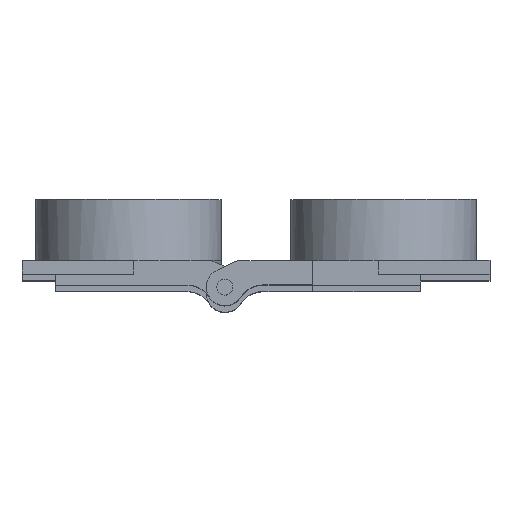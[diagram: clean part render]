
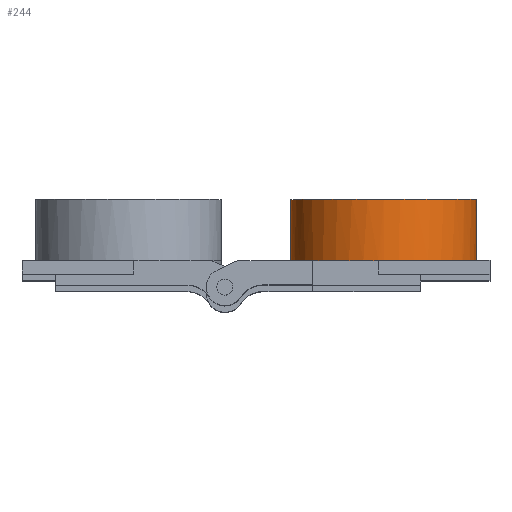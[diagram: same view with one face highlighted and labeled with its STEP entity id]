
A CAD part, top view. The second image highlights one B-rep face of the part: STEP entity #244.
In plain terms, the highlighted cylindrical face has radius 17.5 mm (diameter 35 mm), a full revolution.
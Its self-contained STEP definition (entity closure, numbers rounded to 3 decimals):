
#244 = ADVANCED_FACE( '', ( #508, #509 ), #510, .T. );
#508 = FACE_OUTER_BOUND( '', #785, .T. );
#509 = FACE_OUTER_BOUND( '', #786, .T. );
#510 = CYLINDRICAL_SURFACE( '', #787, 17.5 );
#785 = EDGE_LOOP( '', ( #1372 ) );
#786 = EDGE_LOOP( '', ( #1373, #1374, #1375, #1376, #1377, #1378, #1379, #1380, #1381, #1382 ) );
#787 = AXIS2_PLACEMENT_3D( '', #1383, #1384, #1385 );
#1372 = ORIENTED_EDGE( '', *, *, #1618, .F. );
#1373 = ORIENTED_EDGE( '', *, *, #1801, .T. );
#1374 = ORIENTED_EDGE( '', *, *, #1817, .T. );
#1375 = ORIENTED_EDGE( '', *, *, #1806, .T. );
#1376 = ORIENTED_EDGE( '', *, *, #1818, .T. );
#1377 = ORIENTED_EDGE( '', *, *, #1742, .T. );
#1378 = ORIENTED_EDGE( '', *, *, #1819, .T. );
#1379 = ORIENTED_EDGE( '', *, *, #1741, .T. );
#1380 = ORIENTED_EDGE( '', *, *, #1820, .T. );
#1381 = ORIENTED_EDGE( '', *, *, #1746, .T. );
#1382 = ORIENTED_EDGE( '', *, *, #1821, .T. );
#1383 = CARTESIAN_POINT( '', ( 24., 50., 0. ) );
#1384 = DIRECTION( '', ( 0., -1., 0. ) );
#1385 = DIRECTION( '', ( 0., 0., 1. ) );
#1618 = EDGE_CURVE( '', #1926, #1926, #1927, .T. );
#1741 = EDGE_CURVE( '', #1882, #1877, #2120, .T. );
#1742 = EDGE_CURVE( '', #2046, #1866, #2121, .T. );
#1746 = EDGE_CURVE( '', #2092, #2125, #2127, .T. );
#1801 = EDGE_CURVE( '', #2206, #2106, #2207, .T. );
#1806 = EDGE_CURVE( '', #2108, #2170, #2214, .T. );
#1817 = EDGE_CURVE( '', #2106, #2108, #2225, .T. );
#1818 = EDGE_CURVE( '', #2170, #2046, #2226, .T. );
#1819 = EDGE_CURVE( '', #1866, #1882, #2227, .T. );
#1820 = EDGE_CURVE( '', #1877, #2092, #2228, .T. );
#1821 = EDGE_CURVE( '', #2125, #2206, #2229, .T. );
#1866 = VERTEX_POINT( '', #2280 );
#1877 = VERTEX_POINT( '', #2296 );
#1882 = VERTEX_POINT( '', #2304 );
#1926 = VERTEX_POINT( '', #2354 );
#1927 = CIRCLE( '', #2355, 17.5 );
#2046 = VERTEX_POINT( '', #2515 );
#2092 = VERTEX_POINT( '', #2582 );
#2106 = VERTEX_POINT( '', #2603 );
#2108 = VERTEX_POINT( '', #2605 );
#2120 = CIRCLE( '', #2619, 17.5 );
#2121 = CIRCLE( '', #2620, 17.5 );
#2125 = VERTEX_POINT( '', #2626 );
#2127 = CIRCLE( '', #2629, 17.5 );
#2170 = VERTEX_POINT( '', #2685 );
#2206 = VERTEX_POINT( '', #2736 );
#2207 = CIRCLE( '', #2737, 17.5 );
#2214 = CIRCLE( '', #2748, 17.5 );
#2225 = CIRCLE( '', #2763, 17.5 );
#2226 = CIRCLE( '', #2764, 17.5 );
#2227 = CIRCLE( '', #2765, 17.5 );
#2228 = CIRCLE( '', #2766, 17.5 );
#2229 = CIRCLE( '', #2767, 17.5 );
#2280 = CARTESIAN_POINT( '', ( 38.697, 0., 9.5 ) );
#2296 = CARTESIAN_POINT( '', ( 39., 0., -9.014 ) );
#2304 = CARTESIAN_POINT( '', ( 39., 0., 9.014 ) );
#2354 = CARTESIAN_POINT( '', ( 24., 11.5, 17.5 ) );
#2355 = AXIS2_PLACEMENT_3D( '', #2880, #2881, #2882 );
#2515 = CARTESIAN_POINT( '', ( 23., 0., 17.471 ) );
#2582 = CARTESIAN_POINT( '', ( 38.697, 0., -9.5 ) );
#2603 = CARTESIAN_POINT( '', ( 6.728, 0., -2.815 ) );
#2605 = CARTESIAN_POINT( '', ( 6.728, 0., 2.815 ) );
#2619 = AXIS2_PLACEMENT_3D( '', #3023, #3024, #3025 );
#2620 = AXIS2_PLACEMENT_3D( '', #3026, #3027, #3028 );
#2626 = CARTESIAN_POINT( '', ( 23., 0., -17.471 ) );
#2629 = AXIS2_PLACEMENT_3D( '', #3032, #3033, #3034 );
#2685 = CARTESIAN_POINT( '', ( 10.65, 0., 11.315 ) );
#2736 = CARTESIAN_POINT( '', ( 10.65, 0., -11.315 ) );
#2737 = AXIS2_PLACEMENT_3D( '', #3096, #3097, #3098 );
#2748 = AXIS2_PLACEMENT_3D( '', #3103, #3104, #3105 );
#2763 = AXIS2_PLACEMENT_3D( '', #3113, #3114, #3115 );
#2764 = AXIS2_PLACEMENT_3D( '', #3116, #3117, #3118 );
#2765 = AXIS2_PLACEMENT_3D( '', #3119, #3120, #3121 );
#2766 = AXIS2_PLACEMENT_3D( '', #3122, #3123, #3124 );
#2767 = AXIS2_PLACEMENT_3D( '', #3125, #3126, #3127 );
#2880 = CARTESIAN_POINT( '', ( 24., 11.5, 0. ) );
#2881 = DIRECTION( '', ( 0., 1., 0. ) );
#2882 = DIRECTION( '', ( 0., 0., 1. ) );
#3023 = CARTESIAN_POINT( '', ( 24., 0., 0. ) );
#3024 = DIRECTION( '', ( 0., 1., 0. ) );
#3025 = DIRECTION( '', ( 0., 0., 1. ) );
#3026 = CARTESIAN_POINT( '', ( 24., 0., 0. ) );
#3027 = DIRECTION( '', ( 0., 1., 0. ) );
#3028 = DIRECTION( '', ( 0., 0., 1. ) );
#3032 = CARTESIAN_POINT( '', ( 24., 0., 0. ) );
#3033 = DIRECTION( '', ( 0., 1., 0. ) );
#3034 = DIRECTION( '', ( 0., 0., 1. ) );
#3096 = CARTESIAN_POINT( '', ( 24., 0., 0. ) );
#3097 = DIRECTION( '', ( 0., 1., 0. ) );
#3098 = DIRECTION( '', ( 0., 0., 1. ) );
#3103 = CARTESIAN_POINT( '', ( 24., 0., 0. ) );
#3104 = DIRECTION( '', ( 0., 1., 0. ) );
#3105 = DIRECTION( '', ( 0., 0., 1. ) );
#3113 = CARTESIAN_POINT( '', ( 24., 0., 0. ) );
#3114 = DIRECTION( '', ( 0., 1., 0. ) );
#3115 = DIRECTION( '', ( 0., 0., 1. ) );
#3116 = CARTESIAN_POINT( '', ( 24., 0., 0. ) );
#3117 = DIRECTION( '', ( 0., 1., 0. ) );
#3118 = DIRECTION( '', ( 0., 0., 1. ) );
#3119 = CARTESIAN_POINT( '', ( 24., 0., 0. ) );
#3120 = DIRECTION( '', ( 0., 1., 0. ) );
#3121 = DIRECTION( '', ( 0., 0., 1. ) );
#3122 = CARTESIAN_POINT( '', ( 24., 0., 0. ) );
#3123 = DIRECTION( '', ( 0., 1., 0. ) );
#3124 = DIRECTION( '', ( 0., 0., 1. ) );
#3125 = CARTESIAN_POINT( '', ( 24., 0., 0. ) );
#3126 = DIRECTION( '', ( 0., 1., 0. ) );
#3127 = DIRECTION( '', ( 0., 0., 1. ) );
